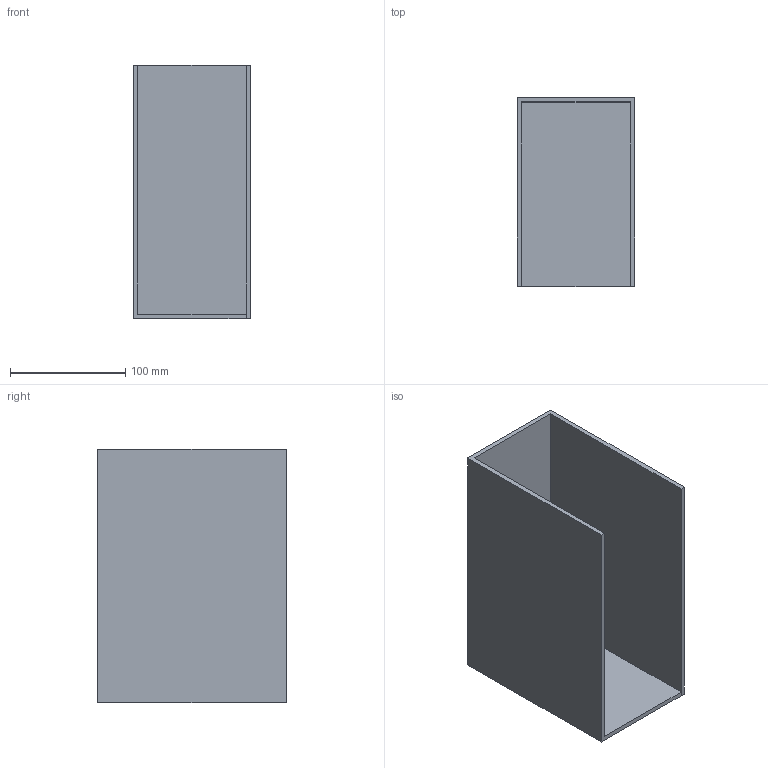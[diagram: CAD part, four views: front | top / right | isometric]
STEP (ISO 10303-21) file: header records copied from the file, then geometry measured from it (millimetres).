
FILE_DESCRIPTION(/* description */ (''),/* implementation_level */ '2;1');
FILE_NAME(/* name */ 'diagon alley_box.step',/* time_stamp */ '2024-01-24T10:23:11+01:00',/* author */ (''),/* organization */ (''),/* preprocessor_version */ 'ST-DEVELOPER v20',/* originating_system */ 'Autodesk Translation Framework v12.14.0.127',/* authorisation */ '');
FILE_SCHEMA (('AUTOMOTIVE_DESIGN { 1 0 10303 214 3 1 1 }'));
Length unit declared in the file: millimetre
Products named in the file (1): diagon alley
Bounding box: 102 x 164 x 220 mm (x, y, z)
Volume: 431520 mm3; surface area: 219616 mm2
Topology: 1 solids, 1 shells, 11 faces, 26 edges, 17 vertices
Faces by surface type: plane 11
Entity records: 345 total; most frequent: CARTESIAN_POINT 55, ORIENTED_EDGE 52, DIRECTION 50, LINE 26, VECTOR 26, EDGE_CURVE 26, VERTEX_POINT 17, AXIS2_PLACEMENT_3D 12
